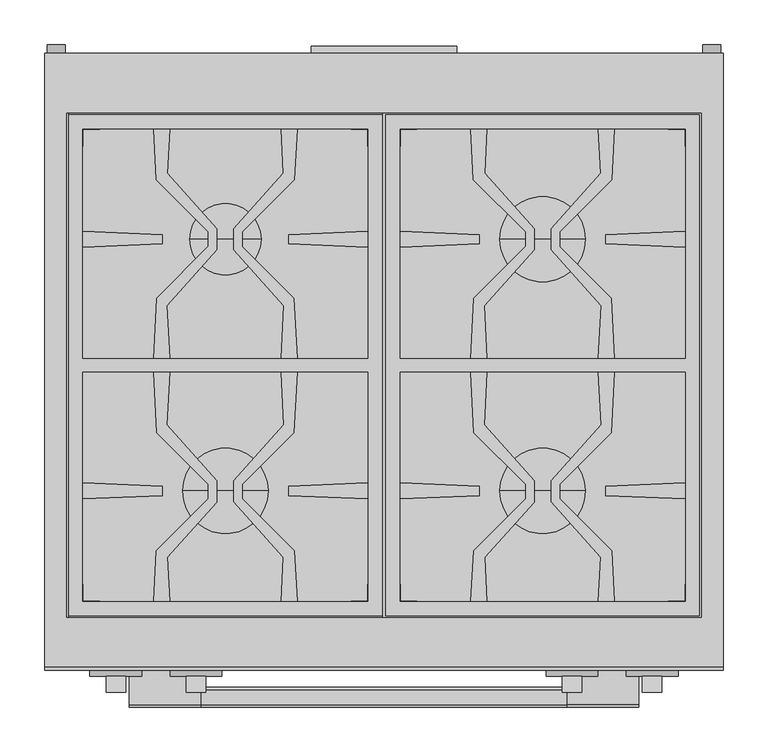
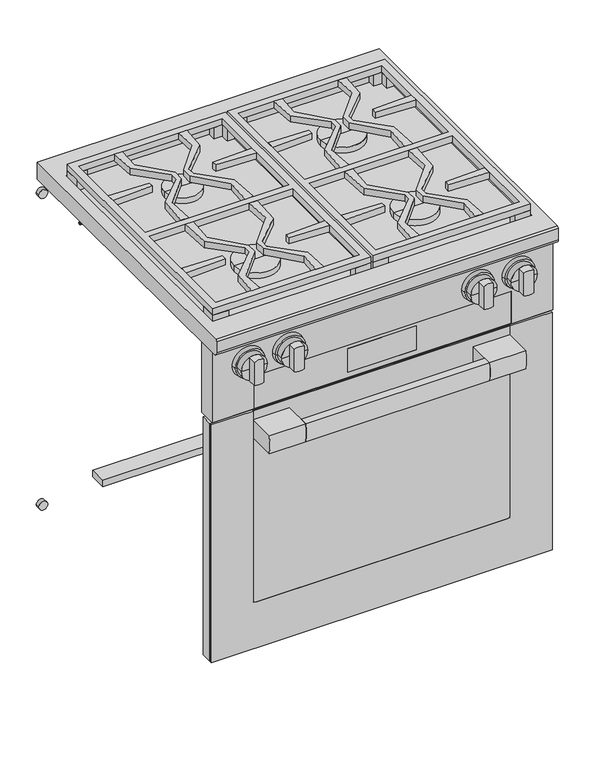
"""IFC4 building model written with IfcOpenShell, lengths in millimetres: proxy geometry, 11791550_USA_HR1924-3G_EDST-CLST : 25192481_USA_11791550_HR1924-3G_EDST-CLST."""

from ifc_helpers import new_model, si_unit, point, frame, frame_2d, origin, place, context, project, spatial, polyline, circle_curve, trimmed, segment, composite_curve, outline, extrude, faceted_brep, source, transform, mapped, element, save
from ifc_brep_helpers import plane_surface, cylinder_surface, revolved_surface, advanced_brep


def specialty_equipment_cf3f5a02(model_context):
    return source(origin(), model_context, "Body", "SolidModel", [
        extrude(outline(composite_curve([segment(polyline([(-714.0, 624.0), (-731.0, 624.0)]), True, "CONTINUOUS"), segment(trimmed(circle_curve(frame_2d((-655.4583333, 645.5)), 78.5416667), [point((-731.0, 624.0))], [point((-731.0, 667.0))], False, "CARTESIAN"), True, "CONTINUOUS"), segment(polyline([(-731.0, 667.0), (-714.0, 667.0)]), True, "CONTINUOUS"), segment(trimmed(circle_curve(frame_2d((-789.5416667, 645.5)), 78.5416667), [point((-714.0, 667.0))], [point((-714.0, 624.0))], False, "CARTESIAN"), True, "CONTINUOUS")], self_intersect=False)), frame((-205.0, 0.0, 0.0), z_axis=(1.0, 0.0, 0.0), x_axis=(0.0, 1.0, 0.0)), (0.0, 0.0, 1.0), 410.0),
        extrude(outline(composite_curve([segment(polyline([(-731.0, 667.0), (-668.7, 667.0), (-668.7, 624.0), (-731.0, 624.0)]), True, "CONTINUOUS"), segment(trimmed(circle_curve(frame_2d((-655.4583333, 645.5)), 78.5416667), [point((-731.0, 624.0))], [point((-731.0, 667.0))], False, "CARTESIAN"), True, "CONTINUOUS")], self_intersect=False)), frame((205.0, 0.0, 0.0), z_axis=(1.0, 0.0, 0.0), x_axis=(0.0, 1.0, 0.0)), (0.0, 0.0, 1.0), 81.0),
        extrude(outline(composite_curve([segment(polyline([(-668.7, 667.0), (-668.7, 624.0), (-731.0, 624.0)]), True, "CONTINUOUS"), segment(trimmed(circle_curve(frame_2d((-655.4583333, 645.5)), 78.5416667), [point((-731.0, 624.0))], [point((-731.0, 667.0))], False, "CARTESIAN"), True, "CONTINUOUS"), segment(polyline([(-731.0, 667.0), (-668.7, 667.0)]), True, "CONTINUOUS")], self_intersect=False)), frame((-286.0, 0.0, 0.0), z_axis=(1.0, 0.0, 0.0), x_axis=(0.0, 1.0, 0.0)), (0.0, 0.0, 1.0), 81.0),
        extrude(outline(polyline([(-380.0, -638.0), (380.0, -638.0), (380.0, -664.7), (-380.0, -664.7), (-380.0, -638.0)])), frame((0.0, 0.0, 127.0), z_axis=(0.0, 0.0, 1.0), x_axis=(1.0, 0.0, 0.0)), (0.0, 0.0, 1.0), 561.0),
        extrude(outline(polyline([(-379.0, -664.7), (379.0, -664.7), (379.0, -668.7), (-379.0, -668.7), (-379.0, -664.7)])), frame((0.0, 0.0, 128.0), z_axis=(0.0, 0.0, 1.0), x_axis=(1.0, 0.0, 0.0)), (0.0, 0.0, 1.0), 559.0),
        advanced_brep(
        [(287.0, -664.7, 688.0), (380.0, -664.7, 688.0), (380.0, -664.7, 127.0), (-380.0, -664.7, 127.0), (-380.0, -664.7, 688.0), (-287.0, -664.7, 688.0), (-287.0, -664.7, 687.0), (-379.0, -664.7, 687.0), (-379.0, -664.7, 128.0), (379.0, -664.7, 128.0), (379.0, -664.7, 687.0), (287.0, -664.7, 687.0), (-287.0, -670.0, 688.0), (-380.0, -670.0, 688.0), (-380.0, -670.0, 127.0), (380.0, -670.0, 127.0), (380.0, -670.0, 688.0), (287.0, -670.0, 688.0), (287.0, -670.0, 241.0), (281.0, -670.0, 235.0), (-281.0, -670.0, 235.0), (-287.0, -670.0, 241.0), (-287.0, -668.7, 241.0), (-287.0, -668.7, 687.0), (281.0, -668.7, 235.0), (-281.0, -668.7, 235.0), (287.0, -668.7, 687.0), (287.0, -668.7, 241.0), (379.0, -668.7, 687.0), (379.0, -668.7, 128.0), (-379.0, -668.7, 128.0), (-379.0, -668.7, 687.0)],
        [
            (0, 1),
            (1, 2),
            (2, 3),
            (3, 4),
            (4, 5),
            (5, 6),
            (6, 7),
            (7, 8),
            (8, 9),
            (9, 10),
            (10, 11),
            (11, 0),
            (12, 13),
            (13, 14),
            (14, 15),
            (15, 16),
            (16, 17),
            (17, 18),
            (18, 19, circle_curve(frame((281.0, -670.0, 241.0), z_axis=(0.0, 1.0, 0.0), x_axis=(-1.0, 0.0, 0.0)), 6.0)),
            (19, 20),
            (20, 21, circle_curve(frame((-281.0, -670.0, 241.0), z_axis=(0.0, 1.0, 0.0), x_axis=(-1.0, 0.0, 0.0)), 6.0)),
            (21, 12),
            (21, 22),
            (22, 23),
            (23, 6),
            (5, 12),
            (19, 24),
            (24, 25),
            (25, 20),
            (17, 0),
            (11, 26),
            (26, 27),
            (27, 18),
            (16, 1),
            (15, 2),
            (14, 3),
            (13, 4),
            (25, 22, circle_curve(frame((-281.0, -668.7, 241.0), z_axis=(0.0, 1.0, 0.0), x_axis=(-1.0, 0.0, 0.0)), 6.0)),
            (27, 24, circle_curve(frame((281.0, -668.7, 241.0), z_axis=(0.0, 1.0, 0.0), x_axis=(-1.0, 0.0, 0.0)), 6.0)),
            (28, 29),
            (29, 30),
            (30, 31),
            (31, 23),
            (26, 28),
            (28, 10),
            (9, 29),
            (8, 30),
            (7, 31),
        ],
        [
            plane_surface(frame((-287.0, -664.7, 241.0), z_axis=(0.0, 1.0, 0.0), x_axis=(0.0, 0.0, -1.0))),
            plane_surface(frame((-287.0, -670.0, 241.0), z_axis=(0.0, -1.0, 0.0), x_axis=(0.0, 0.0, 1.0))),
            plane_surface(frame((-287.0, -664.7, 688.0), z_axis=(1.0, 0.0, 0.0), x_axis=(0.0, -1.0, 0.0))),
            plane_surface(frame((-281.0, -664.7, 235.0), z_axis=(0.0, 0.0, 1.0), x_axis=(0.0, -1.0, 0.0))),
            plane_surface(frame((287.0, -664.7, 241.0), z_axis=(-1.0, 0.0, 0.0), x_axis=(0.0, -1.0, 0.0))),
            plane_surface(frame((287.0, -664.7, 688.0), z_axis=(0.0, 0.0, 1.0), x_axis=(0.0, -1.0, 0.0))),
            plane_surface(frame((380.0, -664.7, 688.0), z_axis=(1.0, 0.0, 0.0), x_axis=(0.0, -1.0, 0.0))),
            plane_surface(frame((380.0, -664.7, 127.0), z_axis=(0.0, 0.0, -1.0), x_axis=(0.0, -1.0, 0.0))),
            plane_surface(frame((-380.0, -664.7, 127.0), z_axis=(-1.0, 0.0, 0.0), x_axis=(0.0, -1.0, 0.0))),
            plane_surface(frame((-380.0, -664.7, 688.0), z_axis=(0.0, 0.0, 1.0), x_axis=(0.0, -1.0, 0.0))),
            revolved_surface(polyline([(-287.0, -670.0, 241.0), (-287.0, -668.7, 241.0)]), (-281.0, -670.0, 241.0), (0.0, -1.0, 0.0)),
            revolved_surface(polyline([(275.0, -670.0, 241.0), (275.0, -668.7, 241.0)]), (281.0, -670.0, 241.0), (0.0, -1.0, 0.0)),
            plane_surface(frame((379.0, -668.7, 687.0), z_axis=(0.0, 1.0, 0.0), x_axis=(0.0, 0.0, 1.0))),
            plane_surface(frame((379.0, -664.7, 687.0), z_axis=(-1.0, 0.0, 0.0), x_axis=(0.0, -1.0, 0.0))),
            plane_surface(frame((379.0, -664.7, 128.0), z_axis=(0.0, 0.0, 1.0), x_axis=(0.0, -1.0, 0.0))),
            plane_surface(frame((-379.0, -664.7, 128.0), z_axis=(1.0, 0.0, 0.0), x_axis=(0.0, -1.0, 0.0))),
            plane_surface(frame((-379.0, -664.7, 687.0), z_axis=(0.0, 0.0, -1.0), x_axis=(0.0, -1.0, 0.0))),
        ],
        [
            (0, [[1, 2, 3, 4, 5, 6, 7, 8, 9, 10, 11, 12]]),
            (1, [[13, 14, 15, 16, 17, 18, 19, 20, 21, 22]]),
            (2, [[-22, 23, 24, 25, -6, 26]]),
            (3, [[-20, 27, 28, 29]]),
            (4, [[-18, 30, -12, 31, 32, 33]]),
            (5, [[-1, -30, -17, 34]]),
            (6, [[-2, -34, -16, 35]]),
            (7, [[-3, -35, -15, 36]]),
            (8, [[-4, -36, -14, 37]]),
            (9, [[-5, -37, -13, -26]]),
            (10, [[-21, -29, 38, -23]]),
            (11, [[-19, -33, 39, -27]]),
            (12, [[40, 41, 42, 43, -24, -38, -28, -39, -32, 44]]),
            (13, [[-40, 45, -10, 46]]),
            (14, [[-41, -46, -9, 47]]),
            (15, [[-42, -47, -8, 48]]),
            (16, [[-45, -44, -31, -11]]),
            (16, [[-48, -7, -25, -43]]),
        ],
    ),
        extrude(outline(polyline([(-351.0, -617.0), (351.0, -617.0), (351.0, -638.0), (-351.0, -638.0), (-351.0, -617.0)])), frame((0.0, 0.0, 133.0), z_axis=(0.0, 0.0, 1.0), x_axis=(1.0, 0.0, 0.0)), (0.0, 0.0, 1.0), 550.0),
        extrude(outline(polyline([(97.4177304, -358.0273828), (115.4174107, -358.0273828), (112.3474419, -416.9894265), (168.4590566, -479.568392), (168.4590566, -503.4471434), (112.8930533, -565.5024535), (115.5051055, -615.0212482), (97.5054252, -615.0212482), (100.4706458, -558.0710081), (158.8494553, -499.6921986), (158.8494553, -483.3657133), (100.9764383, -425.4926963), (97.4177304, -358.0273828)])), frame((0.0, 0.0, 914.0), z_axis=(0.0, 0.0, 1.0), x_axis=(1.0, 0.0, 0.0)), (0.0, 0.0, 1.0), 15.0),
        extrude(outline(polyline([(243.5666917, -416.9448139), (240.4588735, -358.0273828), (258.4534566, -358.0273828), (254.9434746, -425.4403498), (197.0712231, -483.3126013), (197.0712231, -499.6295194), (255.5438392, -558.1021355), (258.5462487, -615.0212482), (240.541471, -615.0212482), (243.1220648, -565.4581775), (187.4590702, -503.3795395), (187.4590702, -479.6049953), (243.5666917, -416.9448139)])), frame((0.0, 0.0, 914.0), z_axis=(0.0, 0.0, 1.0), x_axis=(1.0, 0.0, 0.0)), (0.0, 0.0, 1.0), 15.0),
        extrude(outline(polyline([(-258.5822696, -358.0273828), (-240.5825893, -358.0273828), (-243.6525581, -416.9894265), (-187.5409434, -479.568392), (-187.5409434, -503.4471434), (-243.1069467, -565.5024535), (-240.4948945, -615.0212482), (-258.4945748, -615.0212482), (-255.5293542, -558.0710081), (-197.1505447, -499.6921986), (-197.1505447, -483.3657133), (-255.0235617, -425.4926963), (-258.5822696, -358.0273828)])), frame((0.0, 0.0, 914.0), z_axis=(0.0, 0.0, 1.0), x_axis=(1.0, 0.0, 0.0)), (0.0, 0.0, 1.0), 15.0),
        extrude(outline(polyline([(-115.5411265, -358.0273828), (-97.5465434, -358.0273828), (-101.0565254, -425.4403498), (-158.9287769, -483.3126013), (-158.9287769, -499.6295194), (-100.4561608, -558.1021355), (-97.4537513, -615.0212482), (-115.458529, -615.0212482), (-112.8779352, -565.4581775), (-168.5409298, -503.3795395), (-168.5409298, -479.6049953), (-112.4333083, -416.9448139), (-115.5411265, -358.0273828)])), frame((0.0, 0.0, 914.0), z_axis=(0.0, 0.0, 1.0), x_axis=(1.0, 0.0, 0.0)), (0.0, 0.0, 1.0), 15.0),
        extrude(outline(polyline([(-258.5385862, -85.0), (-240.5385862, -85.0), (-243.1338026, -134.5196799), (-187.5, -196.6082182), (-187.5, -220.3917818), (-243.6289218, -283.0328838), (-240.5385862, -342.0), (-258.5385862, -342.0), (-255.0028157, -274.5334805), (-197.1108918, -216.6415566), (-197.1108918, -200.3584434), (-255.5558783, -141.9134569), (-258.5385862, -85.0)])), frame((0.0, 0.0, 914.0), z_axis=(0.0, 0.0, 1.0), x_axis=(1.0, 0.0, 0.0)), (0.0, 0.0, 1.0), 15.0),
        extrude(outline(polyline([(-115.5, -85.0), (-97.5, -85.0), (-100.4827079, -141.9134569), (-158.8891082, -200.3198573), (-158.8891082, -216.6801428), (-101.0357705, -274.5334805), (-97.5, -342.0), (-115.5, -342.0), (-112.4096644, -283.0328839), (-168.5, -220.4348449), (-168.5, -196.5651551), (-112.9047835, -134.5196799), (-115.5, -85.0)])), frame((0.0, 0.0, 914.0), z_axis=(0.0, 0.0, 1.0), x_axis=(1.0, 0.0, 0.0)), (0.0, 0.0, 1.0), 15.0),
        extrude(outline(polyline([(115.4614138, -85.0), (112.8661974, -134.5196799), (168.5, -196.6082182), (168.5, -220.3917818), (112.3710782, -283.0328838), (115.4614138, -342.0), (97.4614138, -342.0), (100.9971843, -274.5334805), (158.8891082, -216.6415566), (158.8891082, -200.3584434), (100.4441217, -141.9134569), (97.4614138, -85.0), (115.4614138, -85.0)])), frame((0.0, 0.0, 914.0), z_axis=(0.0, 0.0, 1.0), x_axis=(1.0, 0.0, 0.0)), (0.0, 0.0, 1.0), 15.0),
        extrude(outline(polyline([(243.0952165, -134.5196799), (240.5, -85.0), (258.5, -85.0), (255.5172921, -141.9134569), (197.1108918, -200.3198573), (197.1108918, -216.6801428), (254.9642295, -274.5334805), (258.5, -342.0), (240.5, -342.0), (243.5903356, -283.0328839), (187.5, -220.4348449), (187.5, -196.5651551), (243.0952165, -134.5196799)])), frame((0.0, 0.0, 914.0), z_axis=(0.0, 0.0, 1.0), x_axis=(1.0, 0.0, 0.0)), (0.0, 0.0, 1.0), 15.0),
        extrude(outline(polyline([(354.0, -69.0), (354.0, -631.0), (2.0, -631.0), (2.0, -69.0), (354.0, -69.0)])), frame((0.0, 0.0, 870.0), z_axis=(0.0, 0.0, 1.0), x_axis=(1.0, 0.0, 0.0)), (0.0, 0.0, 1.0), 17.0),
        extrude(outline(polyline([(-2.0, -67.0), (-2.0, -633.0), (-354.0, -633.0), (-354.0, -67.0), (-2.0, -67.0)])), frame((0.0, 0.0, 870.0), z_axis=(0.0, 0.0, 1.0), x_axis=(1.0, 0.0, 0.0)), (0.0, 0.0, 1.0), 17.0),
        extrude(outline(polyline([(-249.0, -213.7921261), (-338.0, -217.4578849), (-338.0, -199.5421151), (-249.0, -203.2078739), (-249.0, -213.7921261)])), frame((0.0, 0.0, 914.0), z_axis=(0.0, 0.0, 1.0), x_axis=(1.0, 0.0, 0.0)), (0.0, 0.0, 1.0), 15.0),
        extrude(outline(polyline([(-18.0, -199.5029948), (-18.0, -217.4970052), (-107.0, -213.7790477), (-107.0, -203.2209523), (-18.0, -199.5029948)])), frame((0.0, 0.0, 914.0), z_axis=(0.0, 0.0, 1.0), x_axis=(1.0, 0.0, 0.0)), (0.0, 0.0, 1.0), 15.0),
        extrude(outline(polyline([(-249.0, -496.2921261), (-338.0, -499.9578849), (-338.0, -482.0421151), (-249.0, -485.7078739), (-249.0, -496.2921261)])), frame((0.0, 0.0, 914.0), z_axis=(0.0, 0.0, 1.0), x_axis=(1.0, 0.0, 0.0)), (0.0, 0.0, 1.0), 15.0),
        extrude(outline(polyline([(-18.0, -482.0029948), (-18.0, -499.9970052), (-107.0, -496.2790477), (-107.0, -485.7209523), (-18.0, -482.0029948)])), frame((0.0, 0.0, 914.0), z_axis=(0.0, 0.0, 1.0), x_axis=(1.0, 0.0, 0.0)), (0.0, 0.0, 1.0), 15.0),
        extrude(outline(polyline([(-2.0, -631.0), (-37.0, -631.0), (-37.0, -615.0), (-18.0, -615.0), (-18.0, -596.0), (-2.0, -596.0), (-2.0, -631.0)])), frame((0.0, 0.0, 887.0), z_axis=(0.0, 0.0, 1.0), x_axis=(1.0, 0.0, 0.0)), (0.0, 0.0, 1.0), 27.0),
        extrude(outline(polyline([(-354.0, -631.0), (-354.0, -596.0), (-338.0, -596.0), (-338.0, -615.0), (-319.0, -615.0), (-319.0, -631.0), (-354.0, -631.0)])), frame((0.0, 0.0, 887.0), z_axis=(0.0, 0.0, 1.0), x_axis=(1.0, 0.0, 0.0)), (0.0, 0.0, 1.0), 27.0),
        extrude(outline(polyline([(-2.0, -69.0), (-2.0, -104.0), (-18.0, -104.0), (-18.0, -85.0), (-37.0, -85.0), (-37.0, -69.0), (-2.0, -69.0)])), frame((0.0, 0.0, 887.0), z_axis=(0.0, 0.0, 1.0), x_axis=(1.0, 0.0, 0.0)), (0.0, 0.0, 1.0), 27.0),
        extrude(outline(polyline([(-354.0, -69.0), (-319.0, -69.0), (-319.0, -85.0), (-338.0, -85.0), (-338.0, -104.0), (-354.0, -104.0), (-354.0, -69.0)])), frame((0.0, 0.0, 887.0), z_axis=(0.0, 0.0, 1.0), x_axis=(1.0, 0.0, 0.0)), (0.0, 0.0, 1.0), 27.0),
        extrude(outline(polyline([(18.0337834, -499.9810574), (18.0337834, -482.0189426), (107.0337834, -485.7078739), (107.0337834, -496.2921261), (18.0337834, -499.9810574)])), frame((0.0, 0.0, 914.0), z_axis=(0.0, 0.0, 1.0), x_axis=(1.0, 0.0, 0.0)), (0.0, 0.0, 1.0), 15.0),
        extrude(outline(polyline([(338.0337834, -482.0262039), (338.0337834, -499.9737961), (249.0337834, -496.2790477), (249.0337834, -485.7209523), (338.0337834, -482.0262039)])), frame((0.0, 0.0, 914.0), z_axis=(0.0, 0.0, 1.0), x_axis=(1.0, 0.0, 0.0)), (0.0, 0.0, 1.0), 15.0),
        extrude(outline(polyline([(18.0337834, -217.4810574), (18.0337834, -199.5189426), (107.0337834, -203.2078739), (107.0337834, -213.7921261), (18.0337834, -217.4810574)])), frame((0.0, 0.0, 914.0), z_axis=(0.0, 0.0, 1.0), x_axis=(1.0, 0.0, 0.0)), (0.0, 0.0, 1.0), 15.0),
        extrude(outline(polyline([(338.0337834, -199.5262039), (338.0337834, -217.4737961), (249.0337834, -213.7790477), (249.0337834, -203.2209523), (338.0337834, -199.5262039)])), frame((0.0, 0.0, 914.0), z_axis=(0.0, 0.0, 1.0), x_axis=(1.0, 0.0, 0.0)), (0.0, 0.0, 1.0), 15.0),
        extrude(outline(polyline([(-2.0, -69.0), (-2.0, -631.0), (-354.0, -631.0), (-354.0, -69.0), (-2.0, -69.0)]), holes=[polyline([(-18.0, -85.0), (-338.0, -85.0), (-338.0, -342.0), (-18.0, -342.0), (-18.0, -85.0)]), polyline([(-338.0, -358.0), (-338.0, -615.0), (-18.0, -615.0), (-18.0, -358.0), (-338.0, -358.0)])]), frame((0.0, 0.0, 914.0), z_axis=(0.0, 0.0, 1.0), x_axis=(1.0, 0.0, 0.0)), (0.0, 0.0, 1.0), 15.0),
        extrude(outline(polyline([(354.0, -69.0), (354.0, -631.0), (2.0, -631.0), (2.0, -69.0), (354.0, -69.0)]), holes=[polyline([(338.0337834, -85.0), (18.0337834, -85.0), (18.0337834, -342.0), (338.0337834, -342.0), (338.0337834, -85.0)]), polyline([(18.0337834, -358.0), (18.0337834, -615.0), (338.0337834, -615.0), (338.0337834, -358.0), (18.0337834, -358.0)])]), frame((0.0, 0.0, 914.0), z_axis=(0.0, 0.0, 1.0), x_axis=(1.0, 0.0, 0.0)), (0.0, 0.0, 1.0), 15.0),
        extrude(outline(polyline([(354.0, -631.0), (319.0, -631.0), (319.0, -615.0), (338.0337834, -615.0), (338.0337834, -596.0), (354.0, -596.0), (354.0, -631.0)])), frame((0.0, 0.0, 887.0), z_axis=(0.0, 0.0, 1.0), x_axis=(1.0, 0.0, 0.0)), (0.0, 0.0, 1.0), 27.0),
        extrude(outline(polyline([(2.0, -631.0), (2.0, -596.0), (18.0337834, -596.0), (18.0337834, -615.0), (37.0, -615.0), (37.0, -631.0), (2.0, -631.0)])), frame((0.0, 0.0, 887.0), z_axis=(0.0, 0.0, 1.0), x_axis=(1.0, 0.0, 0.0)), (0.0, 0.0, 1.0), 27.0),
        extrude(outline(polyline([(354.0, -69.0), (354.0, -104.0), (338.0337834, -104.0), (338.0337834, -85.0), (319.0, -85.0), (319.0, -69.0), (354.0, -69.0)])), frame((0.0, 0.0, 887.0), z_axis=(0.0, 0.0, 1.0), x_axis=(1.0, 0.0, 0.0)), (0.0, 0.0, 1.0), 27.0),
        extrude(outline(polyline([(2.0, -69.0), (37.0, -69.0), (37.0, -85.0), (18.0337834, -85.0), (18.0337834, -104.0), (2.0, -104.0), (2.0, -69.0)])), frame((0.0, 0.0, 887.0), z_axis=(0.0, 0.0, 1.0), x_axis=(1.0, 0.0, 0.0)), (0.0, 0.0, 1.0), 27.0),
        advanced_brep(
        [(130.0, -208.5, 887.0), (226.0, -208.5, 887.0), (226.0, -208.5, 901.0), (130.0, -208.5, 901.0), (178.0, -208.5, 887.0), (178.0, -208.5, 901.0)],
        [
            (0, 1, circle_curve(frame((178.0, -208.5, 887.0), z_axis=(0.0, 0.0, 1.0), x_axis=(1.0, 0.0, 0.0)), 48.0)),
            (1, 2),
            (2, 3, circle_curve(frame((178.0, -208.5, 901.0), z_axis=(0.0, 0.0, -1.0), x_axis=(1.0, 0.0, 0.0)), 48.0)),
            (3, 0),
            (1, 0, circle_curve(frame((178.0, -208.5, 887.0), z_axis=(0.0, 0.0, 1.0), x_axis=(1.0, 0.0, 0.0)), 48.0)),
            (3, 2, circle_curve(frame((178.0, -208.5, 901.0), z_axis=(0.0, 0.0, -1.0), x_axis=(1.0, 0.0, 0.0)), 48.0)),
            (4, 1),
            (0, 4),
            (2, 5),
            (5, 3),
        ],
        [
            cylinder_surface(frame((178.0, -208.5, 2338.4), z_axis=(0.0, 0.0, -1.0), x_axis=(1.0, 0.0, 0.0)), 48.0),
            plane_surface(frame((178.0, -208.5, 887.0), z_axis=(0.0, 0.0, -1.0), x_axis=(1.0, 0.0, 0.0))),
            plane_surface(frame((178.0, -208.5, 901.0), z_axis=(0.0, 0.0, 1.0), x_axis=(1.0, 0.0, 0.0))),
        ],
        [
            (0, [[1, 2, 3, 4]]),
            (0, [[5, -4, 6, -2]]),
            (1, [[7, -1, 8]]),
            (1, [[-8, -5, -7]]),
            (2, [[-3, 9, 10]]),
            (2, [[-6, -10, -9]]),
        ],
    ),
        advanced_brep(
        [(-178.0, -208.5, 887.0), (-138.0, -208.5, 887.0), (-218.0, -208.5, 887.0), (-218.0, -208.5, 901.0), (-138.0, -208.5, 901.0), (-178.0, -208.5, 901.0)],
        [
            (0, 1),
            (1, 2, circle_curve(frame((-178.0, -208.5, 887.0), z_axis=(0.0, 0.0, -1.0), x_axis=(1.0, 0.0, 0.0)), 40.0)),
            (2, 0),
            (2, 1, circle_curve(frame((-178.0, -208.5, 887.0), z_axis=(0.0, 0.0, -1.0), x_axis=(1.0, 0.0, 0.0)), 40.0)),
            (3, 4, circle_curve(frame((-178.0, -208.5, 901.0), z_axis=(0.0, 0.0, 1.0), x_axis=(1.0, 0.0, 0.0)), 40.0)),
            (4, 5),
            (5, 3),
            (4, 3, circle_curve(frame((-178.0, -208.5, 901.0), z_axis=(0.0, 0.0, 1.0), x_axis=(1.0, 0.0, 0.0)), 40.0)),
            (1, 4),
            (3, 2),
        ],
        [
            plane_surface(frame((-178.0, -208.5, 887.0), z_axis=(0.0, 0.0, -1.0), x_axis=(1.0, 0.0, 0.0))),
            plane_surface(frame((-178.0, -208.5, 901.0), z_axis=(0.0, 0.0, 1.0), x_axis=(1.0, 0.0, 0.0))),
            cylinder_surface(frame((-178.0, -208.5, 2424.4), z_axis=(0.0, 0.0, -1.0), x_axis=(1.0, 0.0, 0.0)), 40.0),
        ],
        [
            (0, [[1, 2, 3]]),
            (0, [[-3, 4, -1]]),
            (1, [[5, 6, 7]]),
            (1, [[8, -7, -6]]),
            (2, [[-2, 9, -5, 10]]),
            (2, [[-4, -10, -8, -9]]),
        ],
    ),
        advanced_brep(
        [(-226.0, -491.0, 887.0), (-130.0, -491.0, 887.0), (-130.0, -491.0, 901.0), (-226.0, -491.0, 901.0), (-178.0, -491.0, 887.0), (-178.0, -491.0, 901.0)],
        [
            (0, 1, circle_curve(frame((-178.0, -491.0, 887.0), z_axis=(0.0, 0.0, 1.0), x_axis=(1.0, 0.0, 0.0)), 48.0)),
            (1, 2),
            (2, 3, circle_curve(frame((-178.0, -491.0, 901.0), z_axis=(0.0, 0.0, -1.0), x_axis=(1.0, 0.0, 0.0)), 48.0)),
            (3, 0),
            (1, 0, circle_curve(frame((-178.0, -491.0, 887.0), z_axis=(0.0, 0.0, 1.0), x_axis=(1.0, 0.0, 0.0)), 48.0)),
            (3, 2, circle_curve(frame((-178.0, -491.0, 901.0), z_axis=(0.0, 0.0, -1.0), x_axis=(1.0, 0.0, 0.0)), 48.0)),
            (4, 1),
            (0, 4),
            (2, 5),
            (5, 3),
        ],
        [
            cylinder_surface(frame((-178.0, -491.0, 2424.4), z_axis=(0.0, 0.0, -1.0), x_axis=(1.0, 0.0, 0.0)), 48.0),
            plane_surface(frame((-178.0, -491.0, 887.0), z_axis=(0.0, 0.0, -1.0), x_axis=(1.0, 0.0, 0.0))),
            plane_surface(frame((-178.0, -491.0, 901.0), z_axis=(0.0, 0.0, 1.0), x_axis=(1.0, 0.0, 0.0))),
        ],
        [
            (0, [[1, 2, 3, 4]]),
            (0, [[5, -4, 6, -2]]),
            (1, [[7, -1, 8]]),
            (1, [[-8, -5, -7]]),
            (2, [[-3, 9, 10]]),
            (2, [[-6, -10, -9]]),
        ],
    ),
        advanced_brep(
        [(130.0, -491.0, 887.0), (226.0, -491.0, 887.0), (226.0, -491.0, 901.0), (130.0, -491.0, 901.0), (178.0, -491.0, 887.0), (178.0, -491.0, 901.0)],
        [
            (0, 1, circle_curve(frame((178.0, -491.0, 887.0), z_axis=(0.0, 0.0, 1.0), x_axis=(1.0, 0.0, 0.0)), 48.0)),
            (1, 2),
            (2, 3, circle_curve(frame((178.0, -491.0, 901.0), z_axis=(0.0, 0.0, -1.0), x_axis=(1.0, 0.0, 0.0)), 48.0)),
            (3, 0),
            (1, 0, circle_curve(frame((178.0, -491.0, 887.0), z_axis=(0.0, 0.0, 1.0), x_axis=(1.0, 0.0, 0.0)), 48.0)),
            (3, 2, circle_curve(frame((178.0, -491.0, 901.0), z_axis=(0.0, 0.0, -1.0), x_axis=(1.0, 0.0, 0.0)), 48.0)),
            (4, 1),
            (0, 4),
            (2, 5),
            (5, 3),
        ],
        [
            cylinder_surface(frame((178.0, -491.0, 2424.4), z_axis=(0.0, 0.0, -1.0), x_axis=(1.0, 0.0, 0.0)), 48.0),
            plane_surface(frame((178.0, -491.0, 887.0), z_axis=(0.0, 0.0, -1.0), x_axis=(1.0, 0.0, 0.0))),
            plane_surface(frame((178.0, -491.0, 901.0), z_axis=(0.0, 0.0, 1.0), x_axis=(1.0, 0.0, 0.0))),
        ],
        [
            (0, [[1, 2, 3, 4]]),
            (0, [[5, -4, 6, -2]]),
            (1, [[7, -1, 8]]),
            (1, [[-8, -5, -7]]),
            (2, [[-3, 9, 10]]),
            (2, [[-6, -10, -9]]),
        ],
    ),
        advanced_brep(
        [(381.0, 0.0, 902.0), (381.0, -688.3499547, 902.0), (381.0, -692.0, 898.3499547), (381.0, -692.0, 872.0), (381.0, -682.0, 862.0), (381.0, 0.0, 862.0), (-381.0, 0.0, 902.0), (-381.0, 0.0, 862.0), (-381.0, -682.0, 862.0), (-381.0, -692.0, 872.0), (-381.0, -692.0, 898.3499547), (-381.0, -688.3499547, 902.0), (-356.0, -67.0, 902.0), (356.0, -67.0, 902.0), (356.0, -633.0, 902.0), (-356.0, -633.0, 902.0), (356.0, -67.0, 870.0), (-356.0, -67.0, 870.0), (-356.0, -633.0, 870.0), (356.0, -633.0, 870.0)],
        [
            (0, 1),
            (1, 2, circle_curve(frame((381.0, -688.0, 898.0), z_axis=(1.0, 0.0, 0.0), x_axis=(0.0, 0.0, 1.0)), 4.0152794)),
            (2, 3),
            (3, 4, circle_curve(frame((381.0, -682.0, 872.0), z_axis=(1.0, 0.0, 0.0), x_axis=(0.0, 0.0, 1.0)), 10.0)),
            (4, 5),
            (5, 0),
            (6, 7),
            (7, 8),
            (8, 9, circle_curve(frame((-381.0, -682.0, 872.0), z_axis=(-1.0, 0.0, 0.0), x_axis=(0.0, 0.0, 1.0)), 10.0)),
            (9, 10),
            (10, 11, circle_curve(frame((-381.0, -688.0, 898.0), z_axis=(-1.0, 0.0, 0.0), x_axis=(0.0, 0.0, 1.0)), 4.0152794)),
            (11, 6),
            (0, 6),
            (11, 1),
            (12, 13),
            (13, 14),
            (14, 15),
            (15, 12),
            (10, 2),
            (9, 3),
            (8, 4),
            (7, 5),
            (16, 17),
            (17, 18),
            (18, 19),
            (19, 16),
            (16, 13),
            (12, 17),
            (15, 18),
            (14, 19),
        ],
        [
            plane_surface(frame((381.0, -688.3499547, 902.0), z_axis=(1.0, 0.0, 0.0), x_axis=(0.0, -1.0, 0.0))),
            plane_surface(frame((-381.0, -688.3499547, 902.0), z_axis=(-1.0, 0.0, 0.0), x_axis=(0.0, 1.0, 0.0))),
            plane_surface(frame((381.0, 0.0, 902.0), z_axis=(0.0, 0.0, 1.0), x_axis=(-1.0, 0.0, 0.0))),
            cylinder_surface(frame((-381.0, -688.0, 898.0), z_axis=(1.0, 0.0, 0.0), x_axis=(0.0, 0.0, 1.0)), 4.0152794),
            plane_surface(frame((381.0, -692.0, 898.3499547), z_axis=(0.0, -1.0, 0.0), x_axis=(-1.0, 0.0, 0.0))),
            cylinder_surface(frame((-381.0, -682.0, 872.0), z_axis=(1.0, 0.0, 0.0), x_axis=(0.0, 0.0, 1.0)), 10.0),
            plane_surface(frame((381.0, -682.0, 862.0), z_axis=(0.0, 0.0, -1.0), x_axis=(-1.0, 0.0, 0.0))),
            plane_surface(frame((381.0, 0.0, 862.0), z_axis=(0.0, 1.0, 0.0), x_axis=(-1.0, 0.0, 0.0))),
            plane_surface(frame((-356.0, -67.0, 870.0), z_axis=(0.0, 0.0, 1.0), x_axis=(1.0, 0.0, 0.0))),
            plane_surface(frame((356.0, -67.0, 902.0), z_axis=(0.0, -1.0, 0.0), x_axis=(0.0, 0.0, -1.0))),
            plane_surface(frame((-356.0, -67.0, 902.0), z_axis=(1.0, 0.0, 0.0), x_axis=(0.0, 0.0, -1.0))),
            plane_surface(frame((-356.0, -633.0, 902.0), z_axis=(0.0, 1.0, 0.0), x_axis=(0.0, 0.0, -1.0))),
            plane_surface(frame((356.0, -633.0, 902.0), z_axis=(-1.0, 0.0, 0.0), x_axis=(0.0, 0.0, -1.0))),
        ],
        [
            (0, [[1, 2, 3, 4, 5, 6]]),
            (1, [[7, 8, 9, 10, 11, 12]]),
            (2, [[-1, 13, -12, 14], [15, 16, 17, 18]]),
            (3, [[-2, -14, -11, 19]]),
            (4, [[-3, -19, -10, 20]]),
            (5, [[-4, -20, -9, 21]]),
            (6, [[-5, -21, -8, 22]]),
            (7, [[-6, -22, -7, -13]]),
            (8, [[23, 24, 25, 26]]),
            (9, [[-23, 27, -15, 28]]),
            (10, [[-24, -28, -18, 29]]),
            (11, [[-25, -29, -17, 30]]),
            (12, [[-26, -30, -16, -27]]),
        ],
    ),
        extrude(outline(composite_curve([segment(polyline([(839.8328157, -312.0), (786.1671843, -312.0)]), True, "CONTINUOUS"), segment(trimmed(circle_curve(frame_2d((813.0, -301.0)), 29.0), [point((786.1671843, -312.0))], [point((786.1671843, -290.0))], False, "CARTESIAN"), True, "CONTINUOUS"), segment(polyline([(786.1671843, -290.0), (839.8328157, -290.0)]), True, "CONTINUOUS"), segment(trimmed(circle_curve(frame_2d((813.0, -301.0)), 29.0), [point((839.8328157, -290.0))], [point((839.8328157, -312.0))], False, "CARTESIAN"), True, "CONTINUOUS")], self_intersect=False)), frame((0.0, -717.0, 0.0), z_axis=(0.0, 1.0, 0.0), x_axis=(0.0, 0.0, 1.0)), (0.0, 0.0, 1.0), 18.0),
        extrude(outline(composite_curve([segment(polyline([(839.8328157, -222.0), (786.1671843, -222.0)]), True, "CONTINUOUS"), segment(trimmed(circle_curve(frame_2d((813.0, -211.0)), 29.0), [point((786.1671843, -222.0))], [point((786.1671843, -200.0))], False, "CARTESIAN"), True, "CONTINUOUS"), segment(polyline([(786.1671843, -200.0), (839.8328157, -200.0)]), True, "CONTINUOUS"), segment(trimmed(circle_curve(frame_2d((813.0, -211.0)), 29.0), [point((839.8328157, -200.0))], [point((839.8328157, -222.0))], False, "CARTESIAN"), True, "CONTINUOUS")], self_intersect=False)), frame((0.0, -717.0, 0.0), z_axis=(0.0, 1.0, 0.0), x_axis=(0.0, 0.0, 1.0)), (0.0, 0.0, 1.0), 18.0),
        extrude(outline(composite_curve([segment(trimmed(circle_curve(frame_2d((813.0, 211.0)), 29.0), [point((786.1671843, 200.0))], [point((786.1671843, 222.0))], False, "CARTESIAN"), True, "CONTINUOUS"), segment(polyline([(786.1671843, 222.0), (839.8328157, 222.0)]), True, "CONTINUOUS"), segment(trimmed(circle_curve(frame_2d((813.0, 211.0)), 29.0), [point((839.8328157, 222.0))], [point((839.8328157, 200.0))], False, "CARTESIAN"), True, "CONTINUOUS"), segment(polyline([(839.8328157, 200.0), (786.1671843, 200.0)]), True, "CONTINUOUS")], self_intersect=False)), frame((0.0, -717.0, 0.0), z_axis=(0.0, 1.0, 0.0), x_axis=(0.0, 0.0, 1.0)), (0.0, 0.0, 1.0), 18.0),
        advanced_brep(
        [(-301.0, -683.0, 813.0), (-272.0, -683.0, 813.0), (-330.0, -683.0, 813.0), (-330.0, -699.0, 813.0), (-272.0, -699.0, 813.0), (-301.0, -699.0, 813.0)],
        [
            (0, 1),
            (1, 2, circle_curve(frame((-301.0, -683.0, 813.0), z_axis=(0.0, 1.0, 0.0), x_axis=(1.0, 0.0, 0.0)), 29.0)),
            (2, 0),
            (2, 1, circle_curve(frame((-301.0, -683.0, 813.0), z_axis=(0.0, 1.0, 0.0), x_axis=(1.0, 0.0, 0.0)), 29.0)),
            (3, 4, circle_curve(frame((-301.0, -699.0, 813.0), z_axis=(0.0, -1.0, 0.0), x_axis=(1.0, 0.0, 0.0)), 29.0)),
            (4, 5),
            (5, 3),
            (4, 3, circle_curve(frame((-301.0, -699.0, 813.0), z_axis=(0.0, -1.0, 0.0), x_axis=(1.0, 0.0, 0.0)), 29.0)),
            (1, 4),
            (3, 2),
        ],
        [
            plane_surface(frame((-301.0, -683.0, 813.0), z_axis=(0.0, 1.0, 0.0), x_axis=(1.0, 0.0, 0.0))),
            plane_surface(frame((-301.0, -699.0, 813.0), z_axis=(0.0, -1.0, 0.0), x_axis=(1.0, 0.0, 0.0))),
            cylinder_surface(frame((-301.0, 751.3738435, 813.0), z_axis=(0.0, 1.0, 0.0), x_axis=(1.0, 0.0, 0.0)), 29.0),
        ],
        [
            (0, [[1, 2, 3]]),
            (0, [[-3, 4, -1]]),
            (1, [[5, 6, 7]]),
            (1, [[8, -7, -6]]),
            (2, [[-2, 9, -5, 10]]),
            (2, [[-4, -10, -8, -9]]),
        ],
    ),
        advanced_brep(
        [(-211.0, -683.0, 813.0), (-182.0, -683.0, 813.0), (-240.0, -683.0, 813.0), (-240.0, -699.0, 813.0), (-182.0, -699.0, 813.0), (-211.0, -699.0, 813.0)],
        [
            (0, 1),
            (1, 2, circle_curve(frame((-211.0, -683.0, 813.0), z_axis=(0.0, 1.0, 0.0), x_axis=(1.0, 0.0, 0.0)), 29.0)),
            (2, 0),
            (2, 1, circle_curve(frame((-211.0, -683.0, 813.0), z_axis=(0.0, 1.0, 0.0), x_axis=(1.0, 0.0, 0.0)), 29.0)),
            (3, 4, circle_curve(frame((-211.0, -699.0, 813.0), z_axis=(0.0, -1.0, 0.0), x_axis=(1.0, 0.0, 0.0)), 29.0)),
            (4, 5),
            (5, 3),
            (4, 3, circle_curve(frame((-211.0, -699.0, 813.0), z_axis=(0.0, -1.0, 0.0), x_axis=(1.0, 0.0, 0.0)), 29.0)),
            (1, 4),
            (3, 2),
        ],
        [
            plane_surface(frame((-211.0, -683.0, 813.0), z_axis=(0.0, 1.0, 0.0), x_axis=(1.0, 0.0, 0.0))),
            plane_surface(frame((-211.0, -699.0, 813.0), z_axis=(0.0, -1.0, 0.0), x_axis=(1.0, 0.0, 0.0))),
            cylinder_surface(frame((-211.0, 751.3738435, 813.0), z_axis=(0.0, 1.0, 0.0), x_axis=(1.0, 0.0, 0.0)), 29.0),
        ],
        [
            (0, [[1, 2, 3]]),
            (0, [[-3, 4, -1]]),
            (1, [[5, 6, 7]]),
            (1, [[8, -7, -6]]),
            (2, [[-2, 9, -5, 10]]),
            (2, [[-4, -10, -8, -9]]),
        ],
    ),
        advanced_brep(
        [(211.0, -683.0, 813.0), (240.0, -683.0, 813.0), (182.0, -683.0, 813.0), (182.0, -699.0, 813.0), (240.0, -699.0, 813.0), (211.0, -699.0, 813.0)],
        [
            (0, 1),
            (1, 2, circle_curve(frame((211.0, -683.0, 813.0), z_axis=(0.0, 1.0, 0.0), x_axis=(1.0, 0.0, 0.0)), 29.0)),
            (2, 0),
            (2, 1, circle_curve(frame((211.0, -683.0, 813.0), z_axis=(0.0, 1.0, 0.0), x_axis=(1.0, 0.0, 0.0)), 29.0)),
            (3, 4, circle_curve(frame((211.0, -699.0, 813.0), z_axis=(0.0, -1.0, 0.0), x_axis=(1.0, 0.0, 0.0)), 29.0)),
            (4, 5),
            (5, 3),
            (4, 3, circle_curve(frame((211.0, -699.0, 813.0), z_axis=(0.0, -1.0, 0.0), x_axis=(1.0, 0.0, 0.0)), 29.0)),
            (1, 4),
            (3, 2),
        ],
        [
            plane_surface(frame((211.0, -683.0, 813.0), z_axis=(0.0, 1.0, 0.0), x_axis=(1.0, 0.0, 0.0))),
            plane_surface(frame((211.0, -699.0, 813.0), z_axis=(0.0, -1.0, 0.0), x_axis=(1.0, 0.0, 0.0))),
            cylinder_surface(frame((211.0, 751.3738435, 813.0), z_axis=(0.0, 1.0, 0.0), x_axis=(1.0, 0.0, 0.0)), 29.0),
        ],
        [
            (0, [[1, 2, 3]]),
            (0, [[-3, 4, -1]]),
            (1, [[5, 6, 7]]),
            (1, [[8, -7, -6]]),
            (2, [[-2, 9, -5, 10]]),
            (2, [[-4, -10, -8, -9]]),
        ],
    ),
        extrude(outline(composite_curve([segment(polyline([(786.1671843, 312.0), (839.8328157, 312.0)]), True, "CONTINUOUS"), segment(trimmed(circle_curve(frame_2d((813.0, 301.0)), 29.0), [point((839.8328157, 312.0))], [point((839.8328157, 290.0))], False, "CARTESIAN"), True, "CONTINUOUS"), segment(polyline([(839.8328157, 290.0), (786.1671843, 290.0)]), True, "CONTINUOUS"), segment(trimmed(circle_curve(frame_2d((813.0, 301.0)), 29.0), [point((786.1671843, 290.0))], [point((786.1671843, 312.0))], False, "CARTESIAN"), True, "CONTINUOUS")], self_intersect=False)), frame((0.0, -717.0, 0.0), z_axis=(0.0, 1.0, 0.0), x_axis=(0.0, 0.0, 1.0)), (0.0, 0.0, 1.0), 18.0),
        advanced_brep(
        [(301.0, -683.0, 813.0), (330.0, -683.0, 813.0), (272.0, -683.0, 813.0), (272.0, -699.0, 813.0), (330.0, -699.0, 813.0), (301.0, -699.0, 813.0)],
        [
            (0, 1),
            (1, 2, circle_curve(frame((301.0, -683.0, 813.0), z_axis=(0.0, 1.0, 0.0), x_axis=(1.0, 0.0, 0.0)), 29.0)),
            (2, 0),
            (2, 1, circle_curve(frame((301.0, -683.0, 813.0), z_axis=(0.0, 1.0, 0.0), x_axis=(1.0, 0.0, 0.0)), 29.0)),
            (3, 4, circle_curve(frame((301.0, -699.0, 813.0), z_axis=(0.0, -1.0, 0.0), x_axis=(1.0, 0.0, 0.0)), 29.0)),
            (4, 5),
            (5, 3),
            (4, 3, circle_curve(frame((301.0, -699.0, 813.0), z_axis=(0.0, -1.0, 0.0), x_axis=(1.0, 0.0, 0.0)), 29.0)),
            (1, 4),
            (3, 2),
        ],
        [
            plane_surface(frame((301.0, -683.0, 813.0), z_axis=(0.0, 1.0, 0.0), x_axis=(1.0, 0.0, 0.0))),
            plane_surface(frame((301.0, -699.0, 813.0), z_axis=(0.0, -1.0, 0.0), x_axis=(1.0, 0.0, 0.0))),
            cylinder_surface(frame((301.0, 751.3738435, 813.0), z_axis=(0.0, 1.0, 0.0), x_axis=(1.0, 0.0, 0.0)), 29.0),
        ],
        [
            (0, [[1, 2, 3]]),
            (0, [[-3, 4, -1]]),
            (1, [[5, 6, 7]]),
            (1, [[8, -7, -6]]),
            (2, [[-2, 9, -5, 10]]),
            (2, [[-4, -10, -8, -9]]),
        ],
    ),
        extrude(outline(polyline([(76.5, -671.7), (-76.5, -671.7), (-76.5, -670.7), (76.5, -670.7), (76.5, -671.7)])), frame((0.0, 0.0, 707.0), z_axis=(0.0, 0.0, 1.0), x_axis=(1.0, 0.0, 0.0)), (0.0, 0.0, 1.0), 56.0),
        extrude(outline(polyline([(772.0, 287.0), (772.0, -287.0), (695.0, -287.0), (695.0, 287.0), (772.0, 287.0)]), holes=[polyline([(763.0, 76.5), (707.0, 76.5), (707.0, -76.5), (763.0, -76.5), (763.0, 76.5)])]), frame((0.0, -671.7, 0.0), z_axis=(0.0, 1.0, 0.0), x_axis=(0.0, 0.0, 1.0)), (0.0, 0.0, 1.0), 5.0),
        faceted_brep([(380.0, -673.0, 862.0), (-380.0, -673.0, 862.0), (-380.0, -673.0, 695.0), (-287.0, -673.0, 695.0), (-287.0, -673.0, 772.0), (287.0, -673.0, 772.0), (287.0, -673.0, 695.0), (380.0, -673.0, 695.0), (380.0, -633.0, 862.0), (380.0, -633.0, 695.0), (-380.0, -633.0, 695.0), (-380.0, -633.0, 862.0), (287.0, -666.7, 695.0), (-287.0, -666.7, 695.0), (287.0, -666.7, 772.0), (-287.0, -666.7, 772.0)], [[[0, 1, 2, 3, 4, 5, 6, 7]], [[8, 9, 10, 11]], [[0, 7, 9, 8]], [[10, 9, 7, 6, 12, 13, 3, 2]], [[2, 1, 11, 10]], [[1, 0, 8, 11]], [[14, 15, 13, 12]], [[14, 12, 6, 5]], [[13, 15, 4, 3]], [[15, 14, 5, 4]]]),
        advanced_brep(
        [(-334.2367302, -683.0, 813.0), (-267.7632698, -683.0, 813.0), (-301.0, -683.0, 813.0), (-336.0, -673.0, 813.0), (-266.0, -673.0, 813.0), (-301.0, -673.0, 813.0)],
        [
            (0, 1, circle_curve(frame((-301.0, -683.0, 813.0), z_axis=(0.0, -1.0, 0.0), x_axis=(1.0, 0.0, 0.0)), 33.2367302)),
            (1, 2),
            (2, 0),
            (1, 0, circle_curve(frame((-301.0, -683.0, 813.0), z_axis=(0.0, -1.0, 0.0), x_axis=(1.0, 0.0, 0.0)), 33.2367302)),
            (3, 4, circle_curve(frame((-301.0, -673.0, 813.0), z_axis=(0.0, -1.0, 0.0), x_axis=(1.0, 0.0, 0.0)), 35.0)),
            (4, 1),
            (0, 3),
            (4, 3, circle_curve(frame((-301.0, -673.0, 813.0), z_axis=(0.0, -1.0, 0.0), x_axis=(1.0, 0.0, 0.0)), 35.0)),
            (5, 4),
            (3, 5),
        ],
        [
            plane_surface(frame((-301.0, -683.0, 813.0), z_axis=(0.0, -1.0, 0.0), x_axis=(1.0, 0.0, 0.0))),
            revolved_surface(polyline([(-267.7632698, -683.0, 813.0), (-266.0, -673.0, 813.0)]), (-301.0, 751.3738435, 813.0), (0.0, 1.0, 0.0)),
            plane_surface(frame((-301.0, -673.0, 813.0), z_axis=(0.0, 1.0, 0.0), x_axis=(1.0, 0.0, 0.0))),
        ],
        [
            (0, [[1, 2, 3]]),
            (0, [[4, -3, -2]]),
            (1, [[5, 6, -1, 7]]),
            (1, [[8, -7, -4, -6]]),
            (2, [[9, -5, 10]]),
            (2, [[-10, -8, -9]]),
        ],
    ),
        advanced_brep(
        [(-244.2367302, -683.0, 813.0), (-177.7632698, -683.0, 813.0), (-211.0, -683.0, 813.0), (-246.0, -673.0, 813.0), (-176.0, -673.0, 813.0), (-211.0, -673.0, 813.0)],
        [
            (0, 1, circle_curve(frame((-211.0, -683.0, 813.0), z_axis=(0.0, -1.0, 0.0), x_axis=(1.0, 0.0, 0.0)), 33.2367302)),
            (1, 2),
            (2, 0),
            (1, 0, circle_curve(frame((-211.0, -683.0, 813.0), z_axis=(0.0, -1.0, 0.0), x_axis=(1.0, 0.0, 0.0)), 33.2367302)),
            (3, 4, circle_curve(frame((-211.0, -673.0, 813.0), z_axis=(0.0, -1.0, 0.0), x_axis=(1.0, 0.0, 0.0)), 35.0)),
            (4, 1),
            (0, 3),
            (4, 3, circle_curve(frame((-211.0, -673.0, 813.0), z_axis=(0.0, -1.0, 0.0), x_axis=(1.0, 0.0, 0.0)), 35.0)),
            (5, 4),
            (3, 5),
        ],
        [
            plane_surface(frame((-211.0, -683.0, 813.0), z_axis=(0.0, -1.0, 0.0), x_axis=(1.0, 0.0, 0.0))),
            revolved_surface(polyline([(-177.7632698, -683.0, 813.0), (-176.0, -673.0, 813.0)]), (-211.0, 751.3738435, 813.0), (0.0, 1.0, 0.0)),
            plane_surface(frame((-211.0, -673.0, 813.0), z_axis=(0.0, 1.0, 0.0), x_axis=(1.0, 0.0, 0.0))),
        ],
        [
            (0, [[1, 2, 3]]),
            (0, [[4, -3, -2]]),
            (1, [[5, 6, -1, 7]]),
            (1, [[8, -7, -4, -6]]),
            (2, [[9, -5, 10]]),
            (2, [[-10, -8, -9]]),
        ],
    ),
        advanced_brep(
        [(177.7632698, -683.0, 813.0), (244.2367302, -683.0, 813.0), (211.0, -683.0, 813.0), (176.0, -673.0, 813.0), (246.0, -673.0, 813.0), (211.0, -673.0, 813.0)],
        [
            (0, 1, circle_curve(frame((211.0, -683.0, 813.0), z_axis=(0.0, -1.0, 0.0), x_axis=(1.0, 0.0, 0.0)), 33.2367302)),
            (1, 2),
            (2, 0),
            (1, 0, circle_curve(frame((211.0, -683.0, 813.0), z_axis=(0.0, -1.0, 0.0), x_axis=(1.0, 0.0, 0.0)), 33.2367302)),
            (3, 4, circle_curve(frame((211.0, -673.0, 813.0), z_axis=(0.0, -1.0, 0.0), x_axis=(1.0, 0.0, 0.0)), 35.0)),
            (4, 1),
            (0, 3),
            (4, 3, circle_curve(frame((211.0, -673.0, 813.0), z_axis=(0.0, -1.0, 0.0), x_axis=(1.0, 0.0, 0.0)), 35.0)),
            (5, 4),
            (3, 5),
        ],
        [
            plane_surface(frame((211.0, -683.0, 813.0), z_axis=(0.0, -1.0, 0.0), x_axis=(1.0, 0.0, 0.0))),
            revolved_surface(polyline([(244.2367302, -683.0, 813.0), (246.0, -673.0, 813.0)]), (211.0, 751.3738435, 813.0), (0.0, 1.0, 0.0)),
            plane_surface(frame((211.0, -673.0, 813.0), z_axis=(0.0, 1.0, 0.0), x_axis=(1.0, 0.0, 0.0))),
        ],
        [
            (0, [[1, 2, 3]]),
            (0, [[4, -3, -2]]),
            (1, [[5, 6, -1, 7]]),
            (1, [[8, -7, -4, -6]]),
            (2, [[9, -5, 10]]),
            (2, [[-10, -8, -9]]),
        ],
    ),
        advanced_brep(
        [(267.7632698, -683.0, 813.0), (334.2367302, -683.0, 813.0), (301.0, -683.0, 813.0), (266.0, -673.0, 813.0), (336.0, -673.0, 813.0), (301.0, -673.0, 813.0)],
        [
            (0, 1, circle_curve(frame((301.0, -683.0, 813.0), z_axis=(0.0, -1.0, 0.0), x_axis=(1.0, 0.0, 0.0)), 33.2367302)),
            (1, 2),
            (2, 0),
            (1, 0, circle_curve(frame((301.0, -683.0, 813.0), z_axis=(0.0, -1.0, 0.0), x_axis=(1.0, 0.0, 0.0)), 33.2367302)),
            (3, 4, circle_curve(frame((301.0, -673.0, 813.0), z_axis=(0.0, -1.0, 0.0), x_axis=(1.0, 0.0, 0.0)), 35.0)),
            (4, 1),
            (0, 3),
            (4, 3, circle_curve(frame((301.0, -673.0, 813.0), z_axis=(0.0, -1.0, 0.0), x_axis=(1.0, 0.0, 0.0)), 35.0)),
            (5, 4),
            (3, 5),
        ],
        [
            plane_surface(frame((301.0, -683.0, 813.0), z_axis=(0.0, -1.0, 0.0), x_axis=(1.0, 0.0, 0.0))),
            revolved_surface(polyline([(334.2367302, -683.0, 813.0), (336.0, -673.0, 813.0)]), (301.0, 751.3738435, 813.0), (0.0, 1.0, 0.0)),
            plane_surface(frame((301.0, -673.0, 813.0), z_axis=(0.0, 1.0, 0.0), x_axis=(1.0, 0.0, 0.0))),
        ],
        [
            (0, [[1, 2, 3]]),
            (0, [[4, -3, -2]]),
            (1, [[5, 6, -1, 7]]),
            (1, [[8, -7, -4, -6]]),
            (2, [[9, -5, 10]]),
            (2, [[-10, -8, -9]]),
        ],
    ),
        extrude(outline(composite_curve([segment(trimmed(circle_curve(frame_2d((822.0, 368.0)), 10.0), [point((822.0, 378.0))], [point((822.0, 358.0))], False, "CARTESIAN"), True, "CONTINUOUS"), segment(trimmed(circle_curve(frame_2d((822.0, 368.0)), 10.0), [point((822.0, 358.0))], [point((822.0, 378.0))], False, "CARTESIAN"), True, "CONTINUOUS")], self_intersect=False)), frame((0.0, 0.0, 0.0), z_axis=(0.0, 1.0, 0.0), x_axis=(0.0, 0.0, 1.0)), (0.0, 0.0, 1.0), 10.0),
        extrude(outline(composite_curve([segment(trimmed(circle_curve(frame_2d((87.0, 368.0)), 10.0), [point((87.0, 378.0))], [point((87.0, 358.0))], False, "CARTESIAN"), True, "CONTINUOUS"), segment(trimmed(circle_curve(frame_2d((87.0, 368.0)), 10.0), [point((87.0, 358.0))], [point((87.0, 378.0))], False, "CARTESIAN"), True, "CONTINUOUS")], self_intersect=False)), frame((0.0, 0.0, 0.0), z_axis=(0.0, 1.0, 0.0), x_axis=(0.0, 0.0, 1.0)), (0.0, 0.0, 1.0), 10.0),
        extrude(outline(composite_curve([segment(trimmed(circle_curve(frame_2d((822.0, -368.0)), 10.0), [point((822.0, -358.0))], [point((822.0, -378.0))], False, "CARTESIAN"), True, "CONTINUOUS"), segment(trimmed(circle_curve(frame_2d((822.0, -368.0)), 10.0), [point((822.0, -378.0))], [point((822.0, -358.0))], False, "CARTESIAN"), True, "CONTINUOUS")], self_intersect=False)), frame((0.0, 0.0, 0.0), z_axis=(0.0, 1.0, 0.0), x_axis=(0.0, 0.0, 1.0)), (0.0, 0.0, 1.0), 10.0),
        extrude(outline(composite_curve([segment(trimmed(circle_curve(frame_2d((87.0, -368.0)), 10.0), [point((87.0, -358.0))], [point((87.0, -378.0))], False, "CARTESIAN"), True, "CONTINUOUS"), segment(trimmed(circle_curve(frame_2d((87.0, -368.0)), 10.0), [point((87.0, -378.0))], [point((87.0, -358.0))], False, "CARTESIAN"), True, "CONTINUOUS")], self_intersect=False)), frame((0.0, 0.0, 0.0), z_axis=(0.0, 1.0, 0.0), x_axis=(0.0, 0.0, 1.0)), (0.0, 0.0, 1.0), 10.0),
        extrude(outline(polyline([(-258.0, 0.0), (170.0, 0.0), (170.0, -39.0), (-258.0, -39.0), (-258.0, 0.0)])), frame((0.0, 0.0, 117.0), z_axis=(0.0, 0.0, 1.0), x_axis=(1.0, 0.0, 0.0)), (0.0, 0.0, 1.0), 15.0),
        extrude(outline(polyline([(275.0, -23.0), (344.0, -23.0), (344.0, -53.0), (275.0, -53.0), (275.0, -23.0)])), frame((0.0, 0.0, 117.0), z_axis=(0.0, 0.0, 1.0), x_axis=(1.0, 0.0, 0.0)), (0.0, 0.0, 1.0), 15.0),
        extrude(outline(polyline([(-81.5, 8.0), (81.5, 8.0), (81.5, 0.0), (-81.5, 0.0), (-81.5, 8.0)])), frame((0.0, 0.0, 559.0), z_axis=(0.0, 0.0, 1.0), x_axis=(1.0, 0.0, 0.0)), (0.0, 0.0, 1.0), 237.0),
        extrude(outline(composite_curve([segment(trimmed(circle_curve(frame_2d((-152.0, 39.6862697)), 39.6862697), [point((-112.6710759, 45.0))], [point((-191.3289241, 45.0))], False, "CARTESIAN"), True, "CONTINUOUS"), segment(polyline([(-191.3289241, 45.0), (-112.6710759, 45.0)]), True, "CONTINUOUS")], self_intersect=False)), frame((206.0, 0.0, 0.0), z_axis=(1.0, 0.0, 0.0), x_axis=(0.0, 1.0, 0.0)), (0.0, 0.0, 1.0), 28.0),
        extrude(outline(composite_curve([segment(polyline([(-308.0009008, -40.0), (-309.2635363, -40.0), (-309.0191787, -38.9415709), (-308.8778726, -34.1117735)]), True, "CONTINUOUS"), segment(trimmed(circle_curve(frame_2d((-307.387549, -34.1553762)), 1.4909613), [point((-308.8778726, -34.1117735))], [point((-307.6381402, -32.6856246))], False, "CARTESIAN"), True, "CONTINUOUS"), segment(trimmed(circle_curve(frame_2d((-306.1175682, -37.7832301)), 5.3195602), [point((-307.6381402, -32.6856246))], [point((-304.440667, -32.7348914))], False, "CARTESIAN"), True, "CONTINUOUS"), segment(polyline([(-304.440667, -32.7348914), (-303.3643767, -33.4338425), (-302.8177226, -34.6616478), (-304.0710839, -34.8155412), (-304.6628147, -33.9704619)]), True, "CONTINUOUS"), segment(trimmed(circle_curve(frame_2d((-305.889909, -36.6278559)), 2.9270297), [point((-304.6628147, -33.9704619))], [point((-307.335883, -34.0829271))], True, "CARTESIAN"), True, "CONTINUOUS"), segment(polyline([(-307.335883, -34.0829271), (-307.6819155, -35.289686), (-304.4250607, -35.9227545)]), True, "CONTINUOUS"), segment(trimmed(circle_curve(frame_2d((-304.8373847, -38.0439776)), 2.1609254), [point((-304.4250607, -35.9227545))], [point((-303.2872437, -39.5495212))], False, "CARTESIAN"), True, "CONTINUOUS"), segment(trimmed(circle_curve(frame_2d((-305.2230106, -36.6941434)), 3.4496922), [point((-303.2872437, -39.5495212))], [point((-306.4810512, -39.9062626))], False, "CARTESIAN"), True, "CONTINUOUS"), segment(polyline([(-306.4810512, -39.9062626), (-307.6943945, -39.0566705), (-308.0009008, -40.0)]), True, "CONTINUOUS")], self_intersect=False), holes=[composite_curve([segment(polyline([(-307.6808047, -36.7241112), (-307.4778117, -37.8753414), (-306.6808418, -38.5929363), (-305.3846505, -38.8921857)]), True, "CONTINUOUS"), segment(trimmed(circle_curve(frame_2d((-305.1641539, -37.9371101)), 0.980198), [point((-305.3846505, -38.8921857))], [point((-304.5826105, -37.148063))], True, "CARTESIAN"), True, "CONTINUOUS"), segment(polyline([(-304.5826105, -37.148063), (-305.683896, -36.9339948), (-307.6808047, -36.7241112)]), True, "CONTINUOUS")], self_intersect=False)]), frame((0.0, 0.0, 753.0), z_axis=(0.0, 0.0, 1.0), x_axis=(1.0, 0.0, 0.0)), (0.0, 0.0, 1.0), 1.0),
    ])


if __name__ == "__main__":
    model = new_model("IFC4")
    model_context = context("Model", 3, world=origin())
    ifc_project = project(units=[si_unit("LENGTHUNIT", "METRE", prefix="MILLI")], contexts=[model_context])
    site = spatial("IfcSite", under=ifc_project)
    building = spatial("IfcBuilding", under=site)
    placement = place(None, origin())
    specialty_equipment_shape = specialty_equipment_cf3f5a02(model_context)
    element("IfcBuildingElementProxy", 1, Name="11791550_USA_HR1924-3G_EDST-CLST : 25192481_USA_11791550_HR1924-3G_EDST-CLST", ObjectType="11791550_USA_HR1924-3G_EDST-CLST : 25192481_USA_11791550_HR1924-3G_EDST-CLST", at=placement, inside=building, context=model_context, shape_type="MappedRepresentation", body=[
        mapped(specialty_equipment_shape, transform((0.0, 0.0, 0.0), x_axis=(1.0, 0.0, 0.0), y_axis=(0.0, 1.0, 0.0), z_axis=(0.0, 0.0, 1.0))),
    ])
    save(model, "model.ifc")
